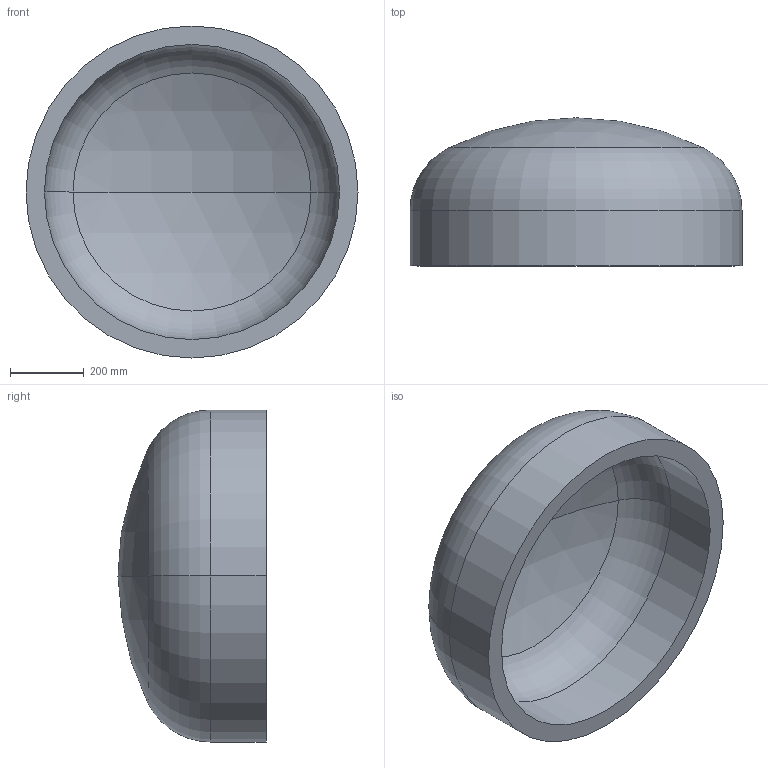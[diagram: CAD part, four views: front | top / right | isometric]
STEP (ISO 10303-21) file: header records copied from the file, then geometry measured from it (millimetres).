
FILE_DESCRIPTION (( 'STEP AP203' ), '1' );
FILE_NAME ('DIN 28013 Korbbogenform_-_Boden DIN 28013 - 900 x 150 - I - s=50.step', '2016-07-01T08:33:27', ( '' ), ( '' ), 'SwSTEP 2.0', 'SolidWorks 2013', '' );
FILE_SCHEMA (( 'CONFIG_CONTROL_DESIGN' ));
Length unit declared in the file: millimetre
Products named in the file (1): DIN 28013 Korbbogenform_-_Boden DIN 28013 - 900 x 150 - I - s=50
Bounding box: 900 x 401.54 x 900 mm (x, y, z)
Volume: 61145156.8 mm3; surface area: 2584559.5 mm2
Topology: 1 solids, 1 shells, 13 faces, 24 edges, 14 vertices
Faces by surface type: torus 4, cylinder 4, sphere 4, plane 1
Entity records: 407 total; most frequent: DIRECTION 72, CARTESIAN_POINT 52, ORIENTED_EDGE 48, AXIS2_PLACEMENT_3D 34, EDGE_CURVE 24, CIRCLE 20, VERTEX_POINT 14, EDGE_LOOP 14
